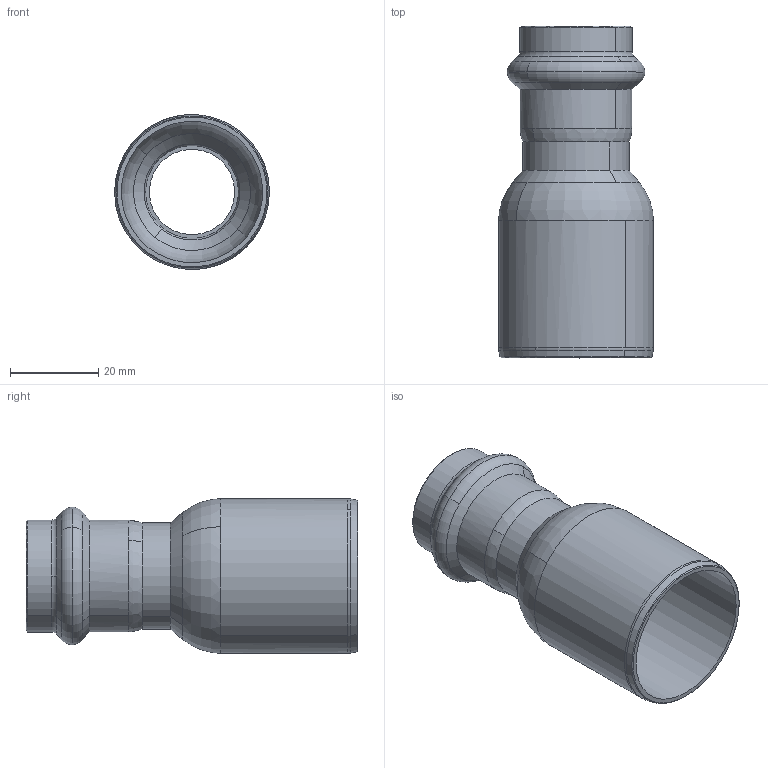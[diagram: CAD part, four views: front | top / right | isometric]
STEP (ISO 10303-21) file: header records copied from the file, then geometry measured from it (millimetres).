
FILE_DESCRIPTION(('CoCreate Modeling STEP Export'),'2;1');
FILE_NAME('8243VW3522.stp','2013-03-05T 9:27:30',(''),(''),'CoCreate Modeling STEP processor for AP214 (Solid Model)','CoCreate Modeling 17.00A 17-Jun-2010 (C) Parametric Technology GmbH','');
FILE_SCHEMA(('AUTOMOTIVE_DESIGN { 1 0 10303 214 1 1 1 1 }'));
Length unit declared in the file: millimetre
Products named in the file (1): 8243VW3522
Bounding box: 35 x 75 x 35 mm (x, y, z)
Volume: 11688.4 mm3; surface area: 14439.3 mm2
Topology: 1 solids, 1 shells, 62 faces, 181 edges, 123 vertices
Faces by surface type: torus 22, cylinder 18, cone 18, plane 4
Entity records: 1592 total; most frequent: ORIENTED_EDGE 362, CARTESIAN_POINT 247, DIRECTION 212, EDGE_CURVE 181, VERTEX_POINT 123, AXIS2_PLACEMENT_3D 88, EDGE_LOOP 66, FACE_OUTER_BOUND 62
